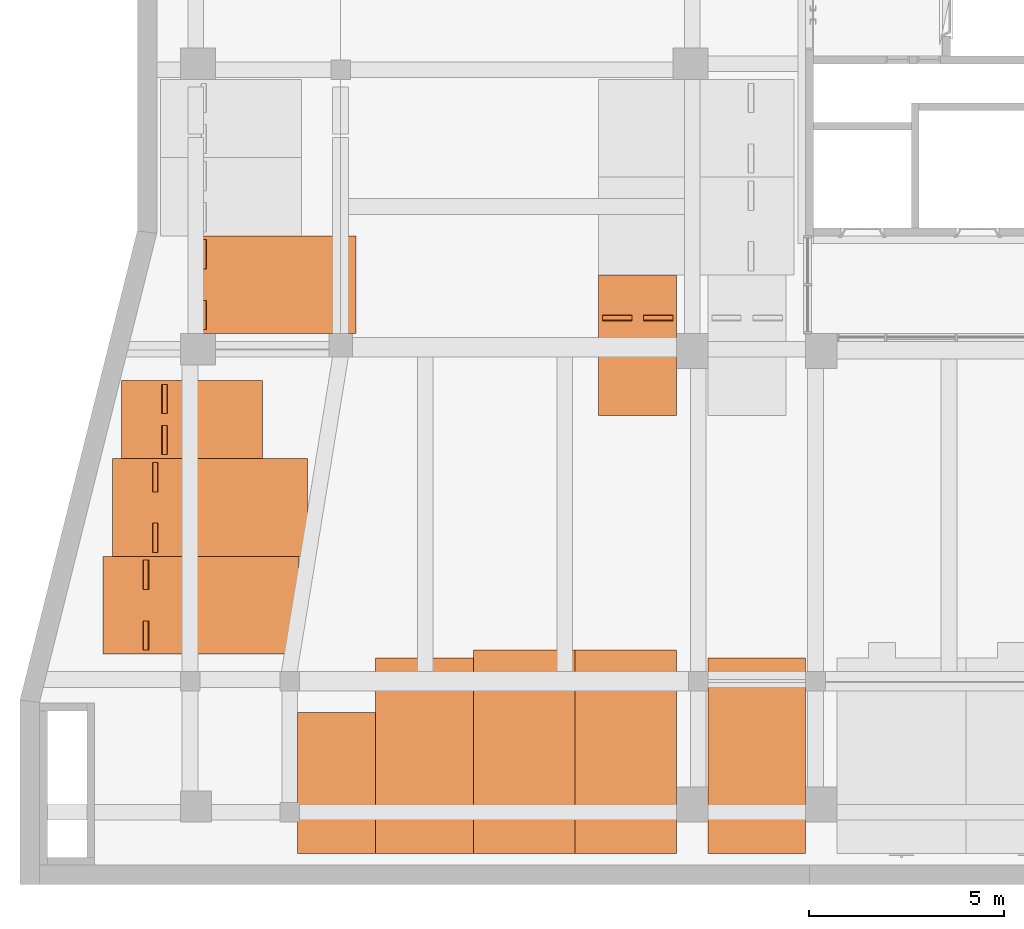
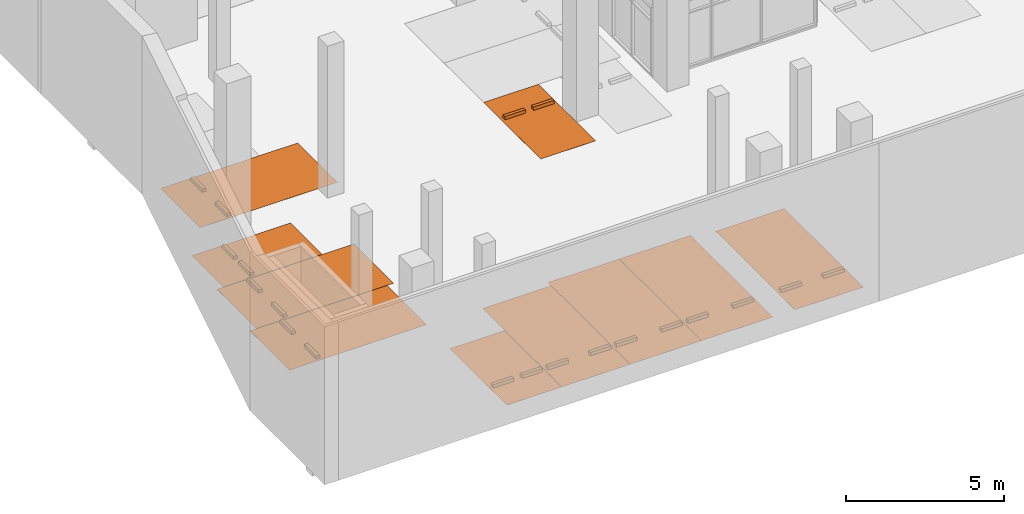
# One storey, part 28 of 29: 10 proxies.
"""IFC2X3 building model written with IfcOpenShell, lengths in millimetres."""

from ifc_helpers import new_model, entity, si_unit, converted_unit, derived_unit, direction, frame, frame_2d, origin, origin_2d_with_axis, place, context, subcontext, project, spatial, polyline, rectangle, outline, extrude, source, transform, mapped, material, material_list, type_object, type_shapes, element, save


model = new_model("IFC2X3")

# Units and contexts
model_context = context("Model", 3, precision=0.01, world=origin(), true_north=direction((6.123031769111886e-17, 1.0)))
body_context = subcontext(model_context, "Body", "Model", "MODEL_VIEW")
ifc_project = project(units=[si_unit("LENGTHUNIT", "METRE", prefix="MILLI"), si_unit("AREAUNIT", "SQUARE_METRE"), si_unit("VOLUMEUNIT", "CUBIC_METRE"), converted_unit("PLANEANGLEUNIT", "DEGREE", entity("IfcRatioMeasure", 0.017453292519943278), si_unit("PLANEANGLEUNIT", "RADIAN"), dimensions=[0, 0, 0, 0, 0, 0, 0]), si_unit("MASSUNIT", "GRAM", prefix="KILO"), derived_unit("MASSDENSITYUNIT", [(si_unit("MASSUNIT", "GRAM", prefix="KILO"), 1), (si_unit("LENGTHUNIT", "METRE"), -3)]), derived_unit("MOMENTOFINERTIAUNIT", [(si_unit("LENGTHUNIT", "METRE"), 4)]), si_unit("TIMEUNIT", "SECOND"), si_unit("FREQUENCYUNIT", "HERTZ"), si_unit("THERMODYNAMICTEMPERATUREUNIT", "DEGREE_CELSIUS"), derived_unit("THERMALTRANSMITTANCEUNIT", [(si_unit("MASSUNIT", "GRAM", prefix="KILO"), 1), (si_unit("THERMODYNAMICTEMPERATUREUNIT", "KELVIN"), -1), (si_unit("TIMEUNIT", "SECOND"), -3)]), derived_unit("VOLUMETRICFLOWRATEUNIT", [(si_unit("LENGTHUNIT", "METRE"), 3), (si_unit("TIMEUNIT", "SECOND"), -1)]), derived_unit("MASSFLOWRATEUNIT", [(si_unit("MASSUNIT", "GRAM", prefix="KILO"), 1), (si_unit("TIMEUNIT", "SECOND"), -1)]), derived_unit("ROTATIONALFREQUENCYUNIT", [(si_unit("TIMEUNIT", "SECOND"), -1)]), si_unit("ELECTRICCURRENTUNIT", "AMPERE"), si_unit("ELECTRICVOLTAGEUNIT", "VOLT"), si_unit("POWERUNIT", "WATT"), si_unit("FORCEUNIT", "NEWTON", prefix="KILO"), si_unit("ILLUMINANCEUNIT", "LUX"), si_unit("LUMINOUSFLUXUNIT", "LUMEN"), si_unit("LUMINOUSINTENSITYUNIT", "CANDELA"), derived_unit("USERDEFINED", [(si_unit("MASSUNIT", "GRAM", prefix="KILO"), -1), (si_unit("LENGTHUNIT", "METRE"), -2), (si_unit("TIMEUNIT", "SECOND"), 3), (si_unit("LUMINOUSFLUXUNIT", "LUMEN"), 1)]), derived_unit("SOUNDPOWERUNIT", [(si_unit("MASSUNIT", "GRAM", prefix="KILO"), 1), (si_unit("LENGTHUNIT", "METRE"), 2), (si_unit("TIMEUNIT", "SECOND"), -3)]), derived_unit("SOUNDPRESSUREUNIT", [(si_unit("MASSUNIT", "GRAM", prefix="KILO"), 1), (si_unit("LENGTHUNIT", "METRE"), -1), (si_unit("TIMEUNIT", "SECOND"), -2)]), derived_unit("LINEARVELOCITYUNIT", [(si_unit("LENGTHUNIT", "METRE"), 1), (si_unit("TIMEUNIT", "SECOND"), -1)]), si_unit("PRESSUREUNIT", "PASCAL"), derived_unit("USERDEFINED", [(si_unit("LENGTHUNIT", "METRE"), -2), (si_unit("MASSUNIT", "GRAM", prefix="KILO"), 1), (si_unit("TIMEUNIT", "SECOND"), -2)]), derived_unit("LINEARFORCEUNIT", [(si_unit("MASSUNIT", "GRAM", prefix="KILO"), 1), (si_unit("LENGTHUNIT", "METRE"), 1), (si_unit("TIMEUNIT", "SECOND"), -2), (si_unit("LENGTHUNIT", "METRE"), -1)]), derived_unit("PLANARFORCEUNIT", [(si_unit("MASSUNIT", "GRAM", prefix="KILO"), 1), (si_unit("LENGTHUNIT", "METRE"), 1), (si_unit("TIMEUNIT", "SECOND"), -2), (si_unit("LENGTHUNIT", "METRE"), -2)])], contexts=[model_context])

# Site, building, storey, space
site_placement = place(None, frame((-14167.972527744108, -657.2125860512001, 0.0)))
site = spatial("IfcSite", under=ifc_project, at=site_placement, Name="Default", CompositionType="ELEMENT")
building_placement = place(site_placement, origin())
building = spatial("IfcBuilding", under=site, at=building_placement, Name="Sample Building", CompositionType="ELEMENT")
storey_placement = place(building_placement, frame((0.0, 0.0, -6100.0)))
storey = spatial("IfcBuildingStorey", under=building, at=storey_placement, Name="지하1층", CompositionType="ELEMENT", Elevation=-6099.999999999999)
space_placement = place(storey_placement, origin())
space = spatial("IfcSpace", under=storey, at=space_placement, Name="136", CompositionType="ELEMENT", InteriorOrExteriorSpace="INTERNAL")

# Proxies
ifc_material_1 = material(Name="KBIMS-고무_검은색")
ifc_material_2 = material(Name="KBIMS-에폭시 페인트")
ifc_material_list_1 = material_list([ifc_material_1, ifc_material_2])
ifc_material_list_2 = material_list([ifc_material_1, ifc_material_1, ifc_material_2])
building_element_proxy_type_1 = type_object("IfcBuildingElementProxyType", Name="SE251-기본주차:SE251-기본주차 일반형", PredefinedType="NOTDEFINED", material=ifc_material_list_2)
shared_shape_1 = source(origin(), body_context, "Body", "SweptSolid", [
    extrude(outline(polyline([(-52.09458852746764, -66.97875667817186), (68.83927769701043, -66.97875667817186), (50.23406750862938, 81.86292482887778), (-66.9787566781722, 52.09458852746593), (-52.09458852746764, -66.97875667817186)])), frame((220.98490989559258, 2900.0, 60.0), z_axis=(1.0, 0.0, 0.0), x_axis=(0.0, -0.12403473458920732, -0.9922778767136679)), (0.0, 0.0, 1.0), 749.9999999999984),
    extrude(outline(polyline([(-68.8392776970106, -66.97875667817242), (52.09458852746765, -66.9787566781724), (66.97875667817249, 52.09458852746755), (-50.234067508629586, 81.86292482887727), (-68.8392776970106, -66.97875667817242)])), frame((-1329.0150901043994, 2900.0, 60.0), z_axis=(1.0, 0.0, 0.0), x_axis=(0.0, -0.12403473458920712, 0.9922778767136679)), (0.0, 0.0, 1.0), 749.9999999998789),
    extrude(rectangle(XDim=2499.9999999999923, YDim=4999.999999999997, at=origin_2d_with_axis()), frame((-179.01509010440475, 1500.0, 0.0), z_axis=(0.0, 0.0, 1.0), x_axis=(-1.0, 0.0, 0.0)), (0.0, 0.0, 1.0), 1.6),
])
type_shapes(building_element_proxy_type_1, [shared_shape_1])
proxy_1_placement = place(space_placement, frame((28638.95740102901, 3757.211911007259, 100.0), z_axis=(0.0, 0.0, 1.0), x_axis=(-1.0, 0.0, 0.0)))
element("IfcBuildingElementProxy", 1, at=proxy_1_placement, inside=space, type_object=building_element_proxy_type_1, material=ifc_material_list_1, Name="SE251-기본주차:SE251-기본주차 일반형", ObjectType="SE251-기본주차:SE251-기본주차 일반형", context=body_context, shape_type="MappedRepresentation", body=[
    mapped(shared_shape_1, transform((0.0, 0.0, 0.0), scale=1.0)),
])
ifc_material_list_3 = material_list([ifc_material_1, ifc_material_2])
proxy_2_placement = place(space_placement, frame((16087.972491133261, 6286.227001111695, 100.0), z_axis=(0.0, 0.0, 1.0), x_axis=(0.0, 1.0, 0.0)))
element("IfcBuildingElementProxy", 2, at=proxy_2_placement, inside=space, type_object=building_element_proxy_type_1, material=ifc_material_list_3, Name="SE251-기본주차:SE251-기본주차 일반형", ObjectType="SE251-기본주차:SE251-기본주차 일반형", context=body_context, shape_type="MappedRepresentation", body=[
    mapped(shared_shape_1, transform((0.0, 0.0, 0.0), scale=1.0)),
])
ifc_material_list_4 = material_list([ifc_material_1, ifc_material_2])
proxy_3_placement = place(space_placement, frame((16327.97249113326, 8786.227001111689, 100.0), z_axis=(0.0, 0.0, 1.0), x_axis=(0.0, 1.0, 0.0)))
element("IfcBuildingElementProxy", 3, at=proxy_3_placement, inside=space, type_object=building_element_proxy_type_1, material=ifc_material_list_4, Name="SE251-기본주차:SE251-기본주차 일반형", ObjectType="SE251-기본주차:SE251-기본주차 일반형", context=body_context, shape_type="MappedRepresentation", body=[
    mapped(shared_shape_1, transform((0.0, 0.0, 0.0), scale=1.0)),
])
ifc_material_list_5 = material_list([ifc_material_1, ifc_material_2])
proxy_4_placement = place(space_placement, frame((17567.972491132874, 14486.226913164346, 100.0), z_axis=(0.0, 0.0, 1.0), x_axis=(0.0, 1.0, 0.0)))
element("IfcBuildingElementProxy", 4, at=proxy_4_placement, inside=space, type_object=building_element_proxy_type_1, material=ifc_material_list_5, Name="SE251-기본주차:SE251-기본주차 일반형", ObjectType="SE251-기본주차:SE251-기본주차 일반형", context=body_context, shape_type="MappedRepresentation", body=[
    mapped(shared_shape_1, transform((0.0, 0.0, 0.0), scale=1.0)),
])
ifc_material_list_6 = material_list([ifc_material_1, ifc_material_2])
proxy_5_placement = place(space_placement, frame((20138.957401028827, 3757.2119110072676, 100.0), z_axis=(0.0, 0.0, 1.0), x_axis=(-1.0, 0.0, 0.0)))
element("IfcBuildingElementProxy", 5, at=proxy_5_placement, inside=space, type_object=building_element_proxy_type_1, material=ifc_material_list_6, Name="SE251-기본주차:SE251-기본주차 일반형", ObjectType="SE251-기본주차:SE251-기본주차 일반형", context=body_context, shape_type="MappedRepresentation", body=[
    mapped(shared_shape_1, transform((0.0, 0.0, 0.0), scale=1.0)),
])
ifc_material_list_7 = material_list([ifc_material_1, ifc_material_2])
ifc_material_list_8 = material_list([ifc_material_1, ifc_material_1, ifc_material_2])
building_element_proxy_type_2 = type_object("IfcBuildingElementProxyType", Name="SE251-기본주차:SE251-기본주차 확장형", PredefinedType="NOTDEFINED", material=ifc_material_list_8)
shared_shape_2 = source(origin(), body_context, "Body", "SweptSolid", [
    extrude(outline(polyline([(-52.09458852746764, -66.97875667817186), (68.83927769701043, -66.97875667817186), (50.23406750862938, 81.86292482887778), (-66.9787566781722, 52.09458852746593), (-52.09458852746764, -66.97875667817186)])), frame((220.98490989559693, 3100.0, 60.0), z_axis=(1.0, 0.0, 0.0), x_axis=(0.0, -0.12403473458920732, -0.9922778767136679)), (0.0, 0.0, 1.0), 749.9999999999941),
    extrude(outline(polyline([(-68.8392776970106, -66.97875667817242), (52.09458852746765, -66.9787566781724), (66.97875667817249, 52.09458852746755), (-50.234067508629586, 81.86292482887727), (-68.8392776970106, -66.97875667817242)])), frame((-1429.0150901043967, 3100.0, 60.0), z_axis=(1.0, 0.0, 0.0), x_axis=(0.0, -0.12403473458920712, 0.9922778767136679)), (0.0, 0.0, 1.0), 749.9999999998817),
    extrude(rectangle(XDim=2599.999999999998, YDim=5200.000000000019, at=origin_2d_with_axis()), frame((-229.015090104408, 1600.0, 0.0), z_axis=(0.0, 0.0, 1.0), x_axis=(-1.0, 0.0, 0.0)), (0.0, 0.0, 1.0), 1.6),
])
type_shapes(building_element_proxy_type_2, [shared_shape_2])
proxy_6_placement = place(space_placement, frame((25238.957401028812, 3957.2119110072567, 100.0), z_axis=(0.0, 0.0, 1.0), x_axis=(-1.0, 0.0, 0.0)))
element("IfcBuildingElementProxy", 6, at=proxy_6_placement, inside=space, type_object=building_element_proxy_type_2, material=ifc_material_list_7, Name="SE251-기본주차:SE251-기본주차 확장형", ObjectType="SE251-기본주차:SE251-기본주차 확장형", context=body_context, shape_type="MappedRepresentation", body=[
    mapped(shared_shape_2, transform((0.0, 0.0, 0.0), scale=1.0)),
])
ifc_material_list_9 = material_list([ifc_material_1, ifc_material_2])
proxy_7_placement = place(space_placement, frame((22638.957401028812, 3957.2119110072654, 100.0), z_axis=(0.0, 0.0, 1.0), x_axis=(-1.0, 0.0, 0.0)))
element("IfcBuildingElementProxy", 7, at=proxy_7_placement, inside=space, type_object=building_element_proxy_type_2, material=ifc_material_list_9, Name="SE251-기본주차:SE251-기본주차 확장형", ObjectType="SE251-기본주차:SE251-기본주차 확장형", context=body_context, shape_type="MappedRepresentation", body=[
    mapped(shared_shape_2, transform((0.0, 0.0, 0.0), scale=1.0)),
])
ifc_material_list_10 = material_list([ifc_material_1, ifc_material_2])
ifc_material_list_11 = material_list([ifc_material_1, ifc_material_1, ifc_material_2])
building_element_proxy_type_3 = type_object("IfcBuildingElementProxyType", Name="SE251-기본주차:SE251-기본주차 경형", PredefinedType="NOTDEFINED", material=ifc_material_list_11)
shared_shape_3 = source(origin(), body_context, "Body", "SweptSolid", [
    extrude(outline(polyline([(-52.09458852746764, -66.97875667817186), (68.83927769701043, -66.97875667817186), (50.23406750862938, 81.86292482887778), (-66.9787566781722, 52.09458852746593), (-52.09458852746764, -66.97875667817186)])), frame((220.98490989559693, 1500.0, 60.0), z_axis=(1.0, 0.0, 0.0), x_axis=(0.0, -0.12403473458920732, -0.9922778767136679)), (0.0, 0.0, 1.0), 749.9999999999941),
    extrude(outline(polyline([(-68.8392776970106, -66.97875667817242), (52.09458852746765, -66.9787566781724), (66.97875667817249, 52.09458852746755), (-50.234067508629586, 81.86292482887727), (-68.8392776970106, -66.97875667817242)])), frame((-829.0150901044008, 1500.0, 60.0), z_axis=(1.0, 0.0, 0.0), x_axis=(0.0, -0.12403473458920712, 0.9922778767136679)), (0.0, 0.0, 1.0), 749.9999999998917),
    extrude(rectangle(XDim=1999.999999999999, YDim=3600.000000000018, at=frame_2d((-5.684341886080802e-14, 0.0), x_axis=(1.0, 0.0))), frame((70.98490989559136, 800.0, 0.0), z_axis=(0.0, 0.0, 1.0), x_axis=(-1.0, 0.0, 0.0)), (0.0, 0.0, 1.0), 1.6),
])
type_shapes(building_element_proxy_type_3, [shared_shape_3])
proxy_8_placement = place(space_placement, frame((15167.972491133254, 10786.227001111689, 100.0), z_axis=(0.0, 0.0, 1.0), x_axis=(0.0, 1.0, 0.0)))
element("IfcBuildingElementProxy", 8, at=proxy_8_placement, inside=space, type_object=building_element_proxy_type_3, material=ifc_material_list_10, Name="SE251-기본주차:SE251-기본주차 경형", ObjectType="SE251-기본주차:SE251-기본주차 경형", context=body_context, shape_type="MappedRepresentation", body=[
    mapped(shared_shape_3, transform((0.0, 0.0, 0.0), scale=1.0)),
])
ifc_material_list_12 = material_list([ifc_material_1, ifc_material_2])
proxy_9_placement = place(space_placement, frame((18138.95740102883, 2357.211911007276, 100.0), z_axis=(0.0, 0.0, 1.0), x_axis=(-1.0, 0.0, 0.0)))
element("IfcBuildingElementProxy", 9, at=proxy_9_placement, inside=space, type_object=building_element_proxy_type_3, material=ifc_material_list_12, Name="SE251-기본주차:SE251-기본주차 경형", ObjectType="SE251-기본주차:SE251-기본주차 경형", context=body_context, shape_type="MappedRepresentation", body=[
    mapped(shared_shape_3, transform((0.0, 0.0, 0.0), scale=1.0)),
])
ifc_material_list_13 = material_list([ifc_material_1, ifc_material_2])
ifc_material_list_14 = material_list([ifc_material_1, ifc_material_1, ifc_material_2])
building_element_proxy_type_4 = type_object("IfcBuildingElementProxyType", Name="SE251-기본주차:SE251-기본주차 경형", PredefinedType="NOTDEFINED", material=ifc_material_list_14)
shared_shape_4 = source(origin(), body_context, "Body", "SweptSolid", [
    extrude(outline(polyline([(-60.0, -60.0), (60.0, -60.0), (75.0, 60.0), (-75.0, 60.0), (-60.0, -60.0)])), frame((220.98490989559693, -1500.0, 60.0), z_axis=(1.0, 0.0, 0.0), x_axis=(0.0, -1.0, 0.0)), (0.0, 0.0, 1.0), 749.9999999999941),
    extrude(outline(polyline([(-75.0, -60.0), (75.0, -60.0), (60.0, 60.0), (-60.0, 60.0), (-75.0, -60.0)])), frame((-829.0150901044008, -1500.0, 60.0), z_axis=(1.0, 0.0, 0.0), x_axis=(0.0, 1.0, 0.0)), (0.0, 0.0, 1.0), 749.9999999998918),
    extrude(rectangle(XDim=3600.000000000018, YDim=1999.999999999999, at=frame_2d((0.0, 5.684341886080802e-14), x_axis=(1.0, 0.0))), frame((70.98490989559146, -800.0, 0.0), z_axis=(0.0, 0.0, 1.0), x_axis=(0.0, 1.0, 0.0)), (0.0, 0.0, 1.0), 1.6),
])
type_shapes(building_element_proxy_type_4, [shared_shape_4])
proxy_10_placement = place(space_placement, frame((25838.95740102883, 11957.211853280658, 100.0), z_axis=(0.0, 0.0, 1.0), x_axis=(-1.0, 0.0, 0.0)))
element("IfcBuildingElementProxy", 10, at=proxy_10_placement, inside=space, type_object=building_element_proxy_type_4, material=ifc_material_list_13, Name="SE251-기본주차:SE251-기본주차 경형", ObjectType="SE251-기본주차:SE251-기본주차 경형", context=body_context, shape_type="MappedRepresentation", body=[
    mapped(shared_shape_4, transform((0.0, 0.0, 0.0), scale=1.0)),
])

save(model, "model.ifc")
